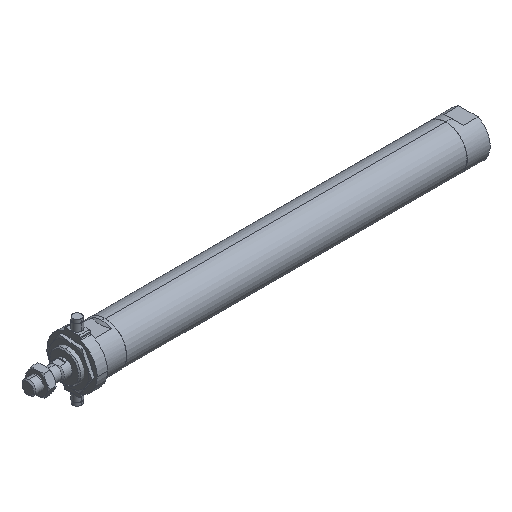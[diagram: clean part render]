
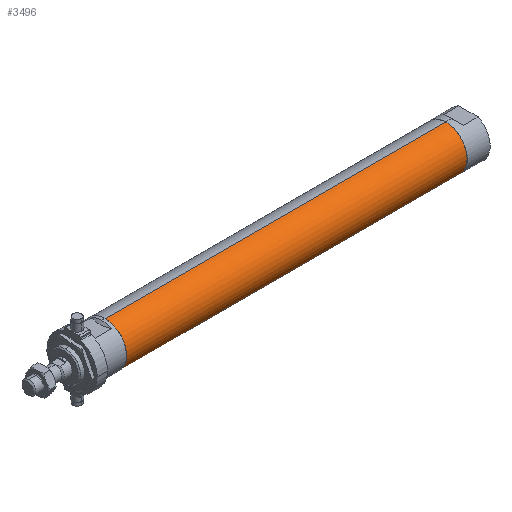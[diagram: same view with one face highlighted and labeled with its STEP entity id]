
A CAD part, isometric view. The second image highlights one B-rep face of the part: STEP entity #3496.
In plain terms, the highlighted cylindrical face has radius 18.8 mm (diameter 37.6 mm), a partial arc.
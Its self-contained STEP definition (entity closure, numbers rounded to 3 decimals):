
#52 = CARTESIAN_POINT ( 'NONE',  ( 68., 0., -18.8 ) ) ;
#212 = CIRCLE ( 'NONE', #4493, 18.8 ) ;
#361 = CARTESIAN_POINT ( 'NONE',  ( -1.784, 0., 18.8 ) ) ;
#840 = DIRECTION ( 'NONE',  ( 0., 0., 1. ) ) ;
#877 = DIRECTION ( 'NONE',  ( -1., 0., 0. ) ) ;
#886 = ORIENTED_EDGE ( 'NONE', *, *, #1333, .F. ) ;
#992 = ORIENTED_EDGE ( 'NONE', *, *, #2954, .F. ) ;
#1105 = AXIS2_PLACEMENT_3D ( 'NONE', #1167, #1520, #1947 ) ;
#1153 = EDGE_CURVE ( 'NONE', #4496, #1643, #1723, .T. ) ;
#1167 = CARTESIAN_POINT ( 'NONE',  ( -1.784, 0., 0. ) ) ;
#1175 = FACE_OUTER_BOUND ( 'NONE', #4170, .T. ) ;
#1333 = EDGE_CURVE ( 'NONE', #2654, #1643, #3493, .T. ) ;
#1520 = DIRECTION ( 'NONE',  ( -1., 0., 0. ) ) ;
#1554 = CARTESIAN_POINT ( 'NONE',  ( 68., 0., 18.8 ) ) ;
#1643 = VERTEX_POINT ( 'NONE', #1554 ) ;
#1686 = AXIS2_PLACEMENT_3D ( 'NONE', #4050, #877, #4391 ) ;
#1723 = LINE ( 'NONE', #361, #2238 ) ;
#1763 = EDGE_CURVE ( 'NONE', #4494, #4496, #212, .T. ) ;
#1768 = CYLINDRICAL_SURFACE ( 'NONE', #1105, 18.8 ) ;
#1862 = CARTESIAN_POINT ( 'NONE',  ( -1.784, 0., -18.8 ) ) ;
#1947 = DIRECTION ( 'NONE',  ( 0., 0., 1. ) ) ;
#2226 = CARTESIAN_POINT ( 'NONE',  ( 367., 0., 0. ) ) ;
#2238 = VECTOR ( 'NONE', #3143, 1000. ) ;
#2302 = LINE ( 'NONE', #1862, #3490 ) ;
#2654 = VERTEX_POINT ( 'NONE', #52 ) ;
#2936 = DIRECTION ( 'NONE',  ( -1., 0., 0. ) ) ;
#2954 = EDGE_CURVE ( 'NONE', #4494, #2654, #2302, .T. ) ;
#3143 = DIRECTION ( 'NONE',  ( -1., 0., 0. ) ) ;
#3226 = ORIENTED_EDGE ( 'NONE', *, *, #1153, .T. ) ;
#3459 = CARTESIAN_POINT ( 'NONE',  ( 367., 0., -18.8 ) ) ;
#3462 = ORIENTED_EDGE ( 'NONE', *, *, #1763, .T. ) ;
#3490 = VECTOR ( 'NONE', #2936, 1000. ) ;
#3493 = CIRCLE ( 'NONE', #1686, 18.8 ) ;
#3496 = ADVANCED_FACE ( 'NONE', ( #1175 ), #1768, .T. ) ;
#3992 = DIRECTION ( 'NONE',  ( -1., 0., 0. ) ) ;
#4050 = CARTESIAN_POINT ( 'NONE',  ( 68., 0., 0. ) ) ;
#4170 = EDGE_LOOP ( 'NONE', ( #992, #3462, #3226, #886 ) ) ;
#4269 = CARTESIAN_POINT ( 'NONE',  ( 367., 0., 18.8 ) ) ;
#4391 = DIRECTION ( 'NONE',  ( 0., 0., 1. ) ) ;
#4493 = AXIS2_PLACEMENT_3D ( 'NONE', #2226, #3992, #840 ) ;
#4494 = VERTEX_POINT ( 'NONE', #3459 ) ;
#4496 = VERTEX_POINT ( 'NONE', #4269 ) ;
